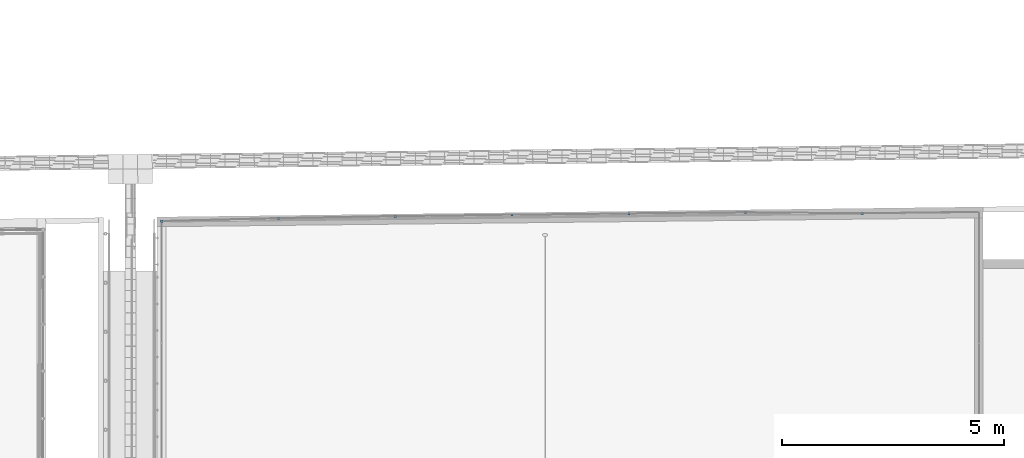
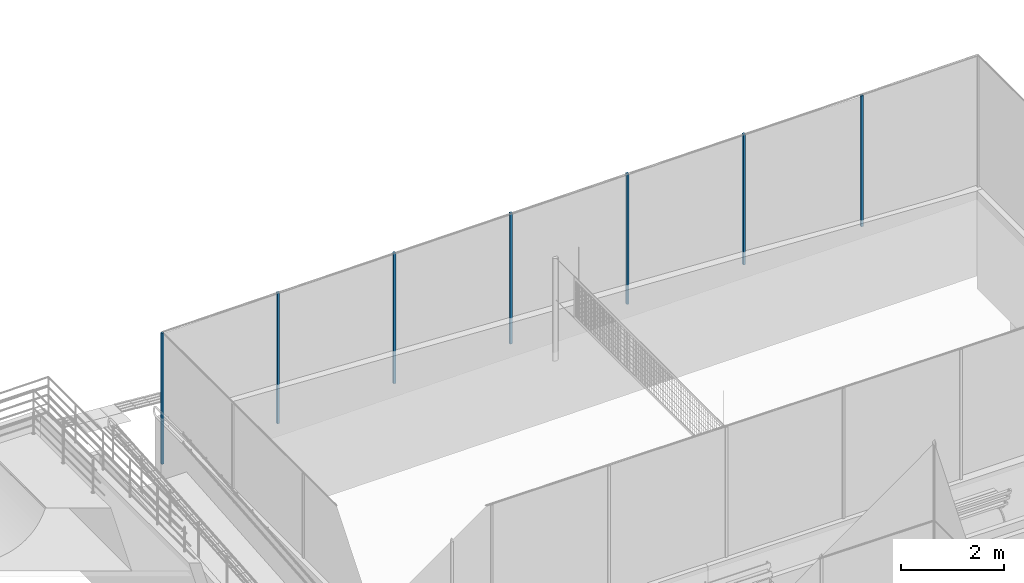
# One storey, part 8 of 237: 8 columns.
"""IFC2X3 building model written with IfcOpenShell, lengths in millimetres."""

from ifc_helpers import new_model, entity, si_unit, converted_unit, derived_unit, money_unit, direction, frame, origin_with_axes, origin_2d_with_axis, place, context, subcontext, project, spatial, rectangle, extrude, material, type_object, element, save


model = new_model("IFC2X3")

# Units and contexts
model_context = context("Model", 3, precision=0.01, world=origin_with_axes(), true_north=direction((0.0, 1.0)))
body_context = subcontext(model_context, "Body", "Model", "MODEL_VIEW")
ifc_project = project(units=[si_unit("LENGTHUNIT", "METRE", prefix="MILLI"), si_unit("AREAUNIT", "SQUARE_METRE"), si_unit("VOLUMEUNIT", "CUBIC_METRE"), converted_unit("PLANEANGLEUNIT", "DEGREE", entity("IfcPlaneAngleMeasure", 0.0174532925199), si_unit("PLANEANGLEUNIT", "RADIAN"), dimensions=[0, 0, 0, 0, 0, 0, 0]), money_unit("USD"), converted_unit("TIMEUNIT", "Year", entity("IfcTimeMeasure", 31556926.0), si_unit("TIMEUNIT", "SECOND"), dimensions=[0, 0, 1, 0, 0, 0, 0]), si_unit("MASSUNIT", "GRAM", prefix="KILO"), si_unit("THERMODYNAMICTEMPERATUREUNIT", "DEGREE_CELSIUS"), si_unit("LUMINOUSINTENSITYUNIT", "LUMEN"), si_unit("ENERGYUNIT", "JOULE", prefix="MEGA"), derived_unit("THERMALCONDUCTANCEUNIT", [(si_unit("POWERUNIT", "WATT"), 1), (si_unit("LENGTHUNIT", "METRE"), -1), (si_unit("THERMODYNAMICTEMPERATUREUNIT", "KELVIN"), -1)]), derived_unit("SPECIFICHEATCAPACITYUNIT", [(si_unit("ENERGYUNIT", "JOULE"), 1), (si_unit("MASSUNIT", "GRAM", prefix="KILO"), -1), (si_unit("THERMODYNAMICTEMPERATUREUNIT", "KELVIN"), -1)]), derived_unit("MASSDENSITYUNIT", [(si_unit("MASSUNIT", "GRAM", prefix="KILO"), 1), (si_unit("VOLUMEUNIT", "CUBIC_METRE"), -1)])], contexts=[model_context])

# Site, building, storey
site_placement = place(None, origin_with_axes())
site = spatial("IfcSite", under=ifc_project, at=site_placement, Name="Local", CompositionType="ELEMENT")
building_placement = place(site_placement, origin_with_axes())
building = spatial("IfcBuilding", under=site, at=building_placement, Name="Construção", CompositionType="ELEMENT")
storey_placement = place(building_placement, origin_with_axes())
storey = spatial("IfcBuildingStorey", under=building, at=storey_placement, Name="Pavimento Térreo", CompositionType="ELEMENT", Elevation=0.0)

# Columns
ifc_material = material(Name="Alumínio")
column_type = type_object("IfcColumnType", Name="Alumínio 50 x 50", PredefinedType="NOTDEFINED")
for number, where, z_axis, x_axis, name in (
    (1, (73526.39237, 35626.7762161, -3427.40377037), (0.0, 0.0, 1.0), (1.0, 0.0, 0.0), "Pil-016"),
    (2, (68268.8350468, 35517.4689202, -3427.40377037), (0.0, 0.0, 1.0), (1.0, 0.0, 0.0), "Pil-016"),
    (3, (70897.6137084, 35582.3425236, -3427.40377037), (0.0, 0.0, 1.0), (1.0, 0.0, 0.0), "Pil-016"),
    (4, (68268.8350468, 35517.4689202, -3427.40377037), (0.0, 0.0, 1.0), (1.0, 0.0, 0.0), "Pil-016"),
    (5, (84041.5070164, 35693.2307332, -3427.40377037), (0.0, 0.0, 1.0), (1.0, 0.0, 0.0), "Pil-016"),
    (6, (78787.8311517, 35685.9545252, -3427.40377037), (0.0, 0.0, 1.0), (1.0, 0.0, 0.0), "Pil-016"),
    (7, (81412.7283548, 35715.013959, -3427.40377037), (0.0, 0.0, 1.0), (1.0, 0.0, 0.0), "Pil-016"),
    (8, (76155.1710316, 35659.1519689, -3427.40377037), (0.0, 0.0, 1.0), (1.0, 0.0, 0.0), "Pil-016"),
):
    element("IfcColumn", number, at=place(storey_placement, frame(where, z_axis=z_axis, x_axis=x_axis)), inside=storey, type_object=column_type, material=ifc_material, Name=name, context=body_context, shape_type="SweptSolid", body=[
        extrude(rectangle(XDim=50.0, YDim=50.0, at=origin_2d_with_axis()), origin_with_axes(), (0.0, 0.0, 1.0), 3100.0),
    ])

save(model, "model.ifc")
